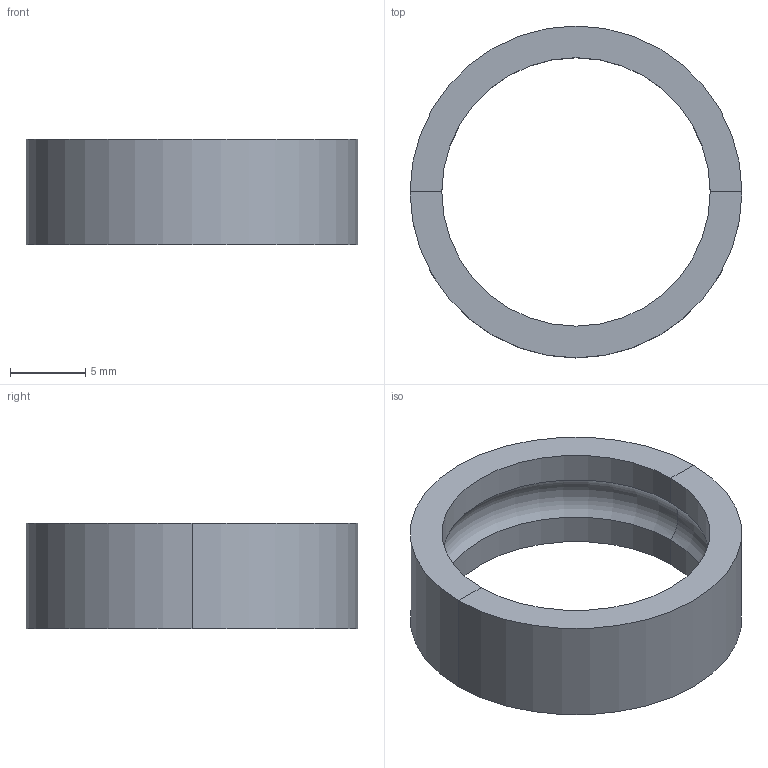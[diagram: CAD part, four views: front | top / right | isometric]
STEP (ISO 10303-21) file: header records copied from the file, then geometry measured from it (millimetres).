
FILE_DESCRIPTION(('BendCAD export'),'2;1');
FILE_NAME('bendcad.step','',('BendCAD'),('BendCAD'),'BendCAD','BendCAD','');
FILE_SCHEMA(('AUTOMOTIVE_DESIGN'));
Length unit declared in the file: millimetre
Products named in the file (1): BENDCAD
Bounding box: 22 x 22 x 7 mm (x, y, z)
Volume: 838.8 mm3; surface area: 1168.1 mm2
Topology: 1 solids, 1 shells, 12 faces, 26 edges, 14 vertices
Faces by surface type: cylinder 6, plane 4, torus 2
Entity records: 334 total; most frequent: DIRECTION 60, ORIENTED_EDGE 52, CARTESIAN_POINT 51, EDGE_CURVE 26, AXIS2_PLACEMENT_3D 25, VERTEX_POINT 14, CIRCLE 12, TRIMMED_CURVE 12
